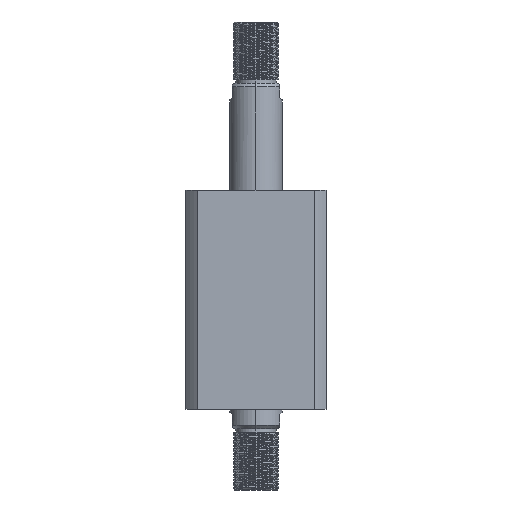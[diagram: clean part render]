
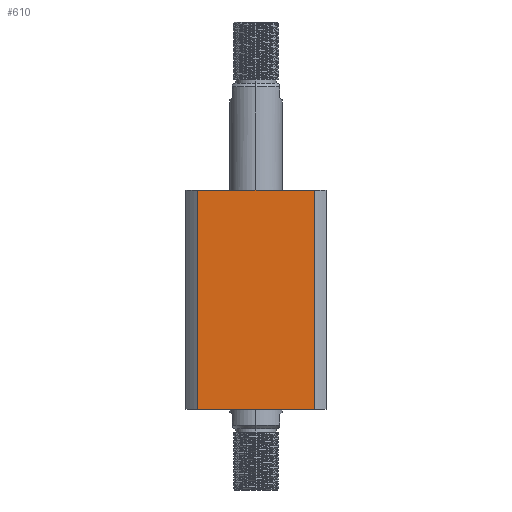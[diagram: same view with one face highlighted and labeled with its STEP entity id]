
A CAD part, left-side view. The second image highlights one B-rep face of the part: STEP entity #610.
In plain terms, the highlighted planar face has unit normal (-1, 0, 0).
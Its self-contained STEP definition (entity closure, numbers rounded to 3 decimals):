
#496 = DIRECTION ( 'NONE',  ( 0., 0., -1. ) ) ;
#610 = ADVANCED_FACE ( 'NONE', ( #7204 ), #2459, .F. ) ;
#920 = DIRECTION ( 'NONE',  ( 0., 0., -1. ) ) ;
#1084 = DIRECTION ( 'NONE',  ( 0., 1., 0. ) ) ;
#1469 = VECTOR ( 'NONE', #8335, 1000. ) ;
#1854 = CARTESIAN_POINT ( 'NONE',  ( -40., -33.226, 62.5 ) ) ;
#1993 = ORIENTED_EDGE ( 'NONE', *, *, #17103, .F. ) ;
#2161 = CARTESIAN_POINT ( 'NONE',  ( -40., 33.226, 62.5 ) ) ;
#2459 = PLANE ( 'NONE',  #9978 ) ;
#3238 = LINE ( 'NONE', #2161, #7530 ) ;
#3995 = EDGE_CURVE ( 'NONE', #9738, #8324, #16674, .T. ) ;
#5112 = LINE ( 'NONE', #12089, #1469 ) ;
#6131 = EDGE_LOOP ( 'NONE', ( #16311, #14700, #1993, #11757 ) ) ;
#7137 = VECTOR ( 'NONE', #496, 1000. ) ;
#7204 = FACE_OUTER_BOUND ( 'NONE', #6131, .T. ) ;
#7530 = VECTOR ( 'NONE', #920, 1000. ) ;
#7639 = DIRECTION ( 'NONE',  ( 0., -1., 0. ) ) ;
#8082 = LINE ( 'NONE', #10313, #12740 ) ;
#8324 = VERTEX_POINT ( 'NONE', #17015 ) ;
#8335 = DIRECTION ( 'NONE',  ( 0., -1., 0. ) ) ;
#8375 = VERTEX_POINT ( 'NONE', #17071 ) ;
#8385 = EDGE_CURVE ( 'NONE', #8375, #8324, #8082, .T. ) ;
#9738 = VERTEX_POINT ( 'NONE', #1854 ) ;
#9978 = AXIS2_PLACEMENT_3D ( 'NONE', #17330, #16381, #1084 ) ;
#10313 = CARTESIAN_POINT ( 'NONE',  ( -40., 33.226, -62.5 ) ) ;
#10347 = CARTESIAN_POINT ( 'NONE',  ( -40., 33.226, 62.5 ) ) ;
#11240 = CARTESIAN_POINT ( 'NONE',  ( -40., -33.226, 62.5 ) ) ;
#11757 = ORIENTED_EDGE ( 'NONE', *, *, #16085, .T. ) ;
#12089 = CARTESIAN_POINT ( 'NONE',  ( -40., 33.226, 62.5 ) ) ;
#12740 = VECTOR ( 'NONE', #7639, 1000. ) ;
#14700 = ORIENTED_EDGE ( 'NONE', *, *, #3995, .F. ) ;
#16085 = EDGE_CURVE ( 'NONE', #17434, #8375, #3238, .T. ) ;
#16311 = ORIENTED_EDGE ( 'NONE', *, *, #8385, .T. ) ;
#16381 = DIRECTION ( 'NONE',  ( 1., 0., 0. ) ) ;
#16674 = LINE ( 'NONE', #11240, #7137 ) ;
#17015 = CARTESIAN_POINT ( 'NONE',  ( -40., -33.226, -62.5 ) ) ;
#17071 = CARTESIAN_POINT ( 'NONE',  ( -40., 33.226, -62.5 ) ) ;
#17103 = EDGE_CURVE ( 'NONE', #17434, #9738, #5112, .T. ) ;
#17330 = CARTESIAN_POINT ( 'NONE',  ( -40., 33.226, 62.5 ) ) ;
#17434 = VERTEX_POINT ( 'NONE', #10347 ) ;
